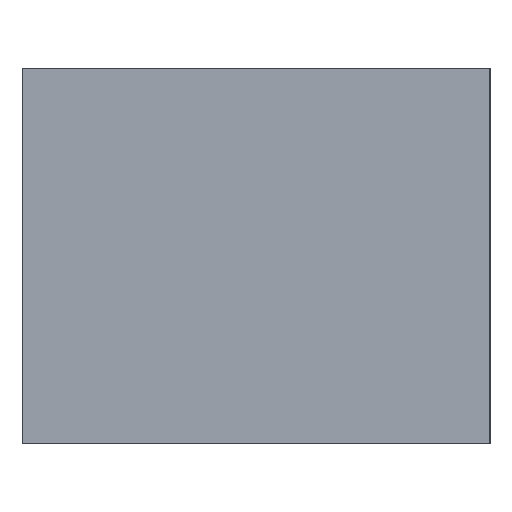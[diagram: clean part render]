
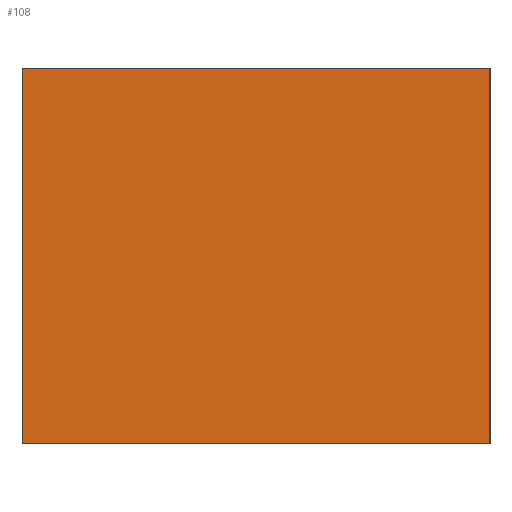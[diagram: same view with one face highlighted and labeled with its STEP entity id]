
A CAD part, left-side view. The second image highlights one B-rep face of the part: STEP entity #108.
In plain terms, the highlighted planar face has unit normal (-1, 0, 0).
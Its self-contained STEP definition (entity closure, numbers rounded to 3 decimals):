
#108=ADVANCED_FACE('',(#131),#126,.T.);
#126=PLANE('',#307);
#131=FACE_OUTER_BOUND('',#136,.T.);
#136=EDGE_LOOP('',(#180,#181,#182,#183));
#180=ORIENTED_EDGE('',*,*,#259,.F.);
#181=ORIENTED_EDGE('',*,*,#258,.F.);
#182=ORIENTED_EDGE('',*,*,#260,.T.);
#183=ORIENTED_EDGE('',*,*,#261,.T.);
#232=VERTEX_POINT('',#434);
#233=VERTEX_POINT('',#436);
#234=VERTEX_POINT('',#440);
#235=VERTEX_POINT('',#442);
#258=EDGE_CURVE('',#233,#232,#284,.T.);
#259=EDGE_CURVE('',#232,#234,#285,.T.);
#260=EDGE_CURVE('',#233,#235,#286,.T.);
#261=EDGE_CURVE('',#235,#234,#287,.T.);
#284=LINE('',#437,#296);
#285=LINE('',#439,#297);
#286=LINE('',#441,#298);
#287=LINE('',#443,#299);
#296=VECTOR('',#351,1.);
#297=VECTOR('',#354,1.);
#298=VECTOR('',#355,1.);
#299=VECTOR('',#356,1.);
#307=AXIS2_PLACEMENT_3D('',#444,#357,#358);
#351=DIRECTION('',(0.,0.,-1.));
#354=DIRECTION('',(0.,1.,0.));
#355=DIRECTION('',(0.,1.,0.));
#356=DIRECTION('',(0.,0.,-1.));
#357=DIRECTION('',(-1.,0.,0.));
#358=DIRECTION('',(0.,0.,1.));
#434=CARTESIAN_POINT('',(-34.,-25.5,-6.));
#436=CARTESIAN_POINT('',(-34.,-25.5,6.));
#437=CARTESIAN_POINT('',(-34.,-25.5,6.));
#439=CARTESIAN_POINT('',(-34.,-25.5,-6.));
#440=CARTESIAN_POINT('',(-34.,-10.5,-6.));
#441=CARTESIAN_POINT('',(-34.,-25.5,6.));
#442=CARTESIAN_POINT('',(-34.,-10.5,6.));
#443=CARTESIAN_POINT('',(-34.,-10.5,6.));
#444=CARTESIAN_POINT('',(-34.,-25.5,6.));
